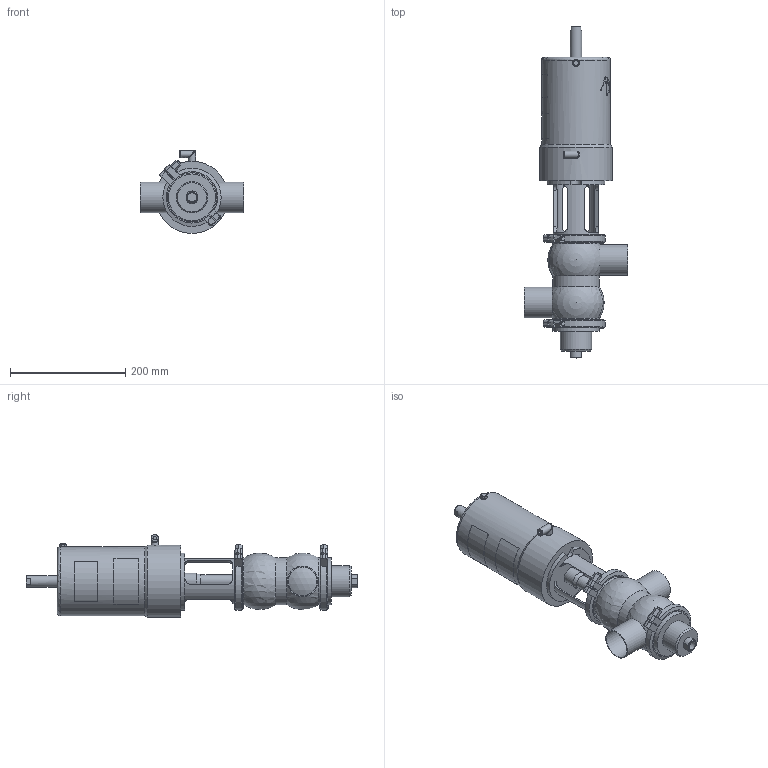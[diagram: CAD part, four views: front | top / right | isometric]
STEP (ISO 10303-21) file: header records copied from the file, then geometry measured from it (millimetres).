
FILE_DESCRIPTION (( 'STEP AP214' ), '1' );
FILE_NAME ('INNOVA S DC-180 W DIN 050_10.251.16.0009.STEP', '2024-08-20T10:23:53', ( '' ), ( '' ), 'SwSTEP 2.0', 'SolidWorks 2023', '' );
FILE_SCHEMA (( 'AUTOMOTIVE_DESIGN' ));
Length unit declared in the file: millimetre
Products named in the file (6): 10.250.15.0002_Type S T1; 10.251.15.0011_DIN 050; INNOVA S DC-180 W DIN 050_10.251.16.0009; 10.240.15.0001_DN 050; 10.251.15.0002_DN 050; 10.251.15.0001_DN 050
Assembly tree (6 placements, depth 2):
  INNOVA S DC-180 W DIN 050_10.251.16.0009
    10.251.15.0001_DN 050
    10.250.15.0002_Type S T1
    10.251.15.0011_DIN 050
    10.240.15.0001_DN 050  x2
    10.251.15.0002_DN 050
Bounding box: 180 x 575 x 143.5 mm (x, y, z)
Volume: 3847295.9 mm3; surface area: 313010.3 mm2
Topology: 6 solids, 6 shells, 421 faces, 1092 edges, 709 vertices
Faces by surface type: plane 201, cylinder 108, bspline 80, cone 27, sphere 4, torus 1
Full cylindrical faces by diameter (mm): 4.2 x2, 5 x1, 6 x1, 6.15 x1, 8 x4, 8.5 x1, 10.5 x2, 12.5 x6, 16 x1, 20 x1, 23 x1, 28 x1, 50 x2, 53 x2, 54 x1, 78 x1, 81 x4, 93 x4, 119.5 x1, 125 x1
Entity records: 21089 total; most frequent: CARTESIAN_POINT 11036, ORIENTED_EDGE 1724, DIRECTION 1343, EDGE_CURVE 862, VERTEX_POINT 589, AXIS2_PLACEMENT_3D 513, EDGE_LOOP 449, FACE_OUTER_BOUND 402
